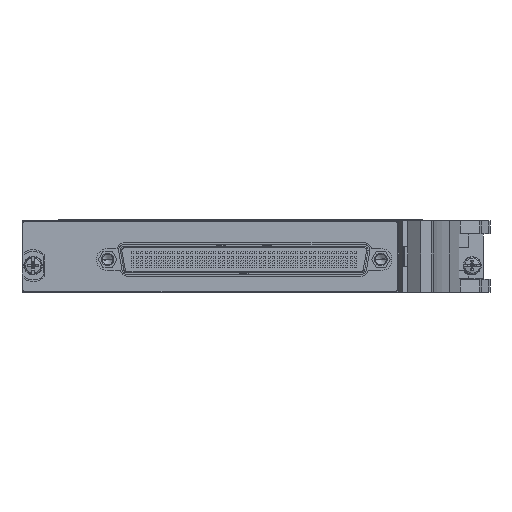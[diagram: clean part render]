
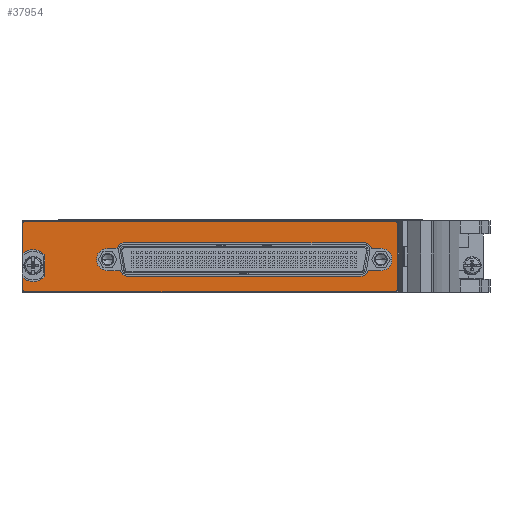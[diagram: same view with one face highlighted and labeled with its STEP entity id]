
A CAD part, left-side view. The second image highlights one B-rep face of the part: STEP entity #37954.
In plain terms, the highlighted planar face has unit normal (-1, 0, 0).
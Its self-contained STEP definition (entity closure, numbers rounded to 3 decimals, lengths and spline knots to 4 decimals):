
#6010=CARTESIAN_POINT('',(-4.289,0.5346,0.6615));
#6011=DIRECTION('',(-1.,0.,0.));
#6012=DIRECTION('',(0.,0.,1.));
#6013=AXIS2_PLACEMENT_3D('',#6010,#6011,#6012);
#6015=DIRECTION('',(0.,1.,0.));
#6016=VECTOR('',#6015,4.07);
#6017=CARTESIAN_POINT('',(-4.289,-3.5354,0.6815));
#6018=LINE('',#6017,#6016);
#6019=CARTESIAN_POINT('',(-4.289,-3.5354,0.6615));
#6020=DIRECTION('',(-1.,0.,0.));
#6021=DIRECTION('',(0.,-1.,0.));
#6022=AXIS2_PLACEMENT_3D('',#6019,#6020,#6021);
#6024=DIRECTION('',(0.,0.,1.));
#6025=VECTOR('',#6024,0.728);
#6026=CARTESIAN_POINT('',(-4.289,-3.5554,-0.0665));
#6027=LINE('',#6026,#6025);
#6028=CARTESIAN_POINT('',(-4.289,-3.5354,-0.0665));
#6029=DIRECTION('',(-1.,0.,0.));
#6030=DIRECTION('',(0.,0.,-1.));
#6031=AXIS2_PLACEMENT_3D('',#6028,#6029,#6030);
#6033=DIRECTION('',(0.,-1.,0.));
#6034=VECTOR('',#6033,4.07);
#6035=CARTESIAN_POINT('',(-4.289,0.5346,-0.0865));
#6036=LINE('',#6035,#6034);
#6037=CARTESIAN_POINT('',(-4.289,0.5346,-0.0665));
#6038=DIRECTION('',(-1.,0.,0.));
#6039=DIRECTION('',(0.,1.,0.));
#6040=AXIS2_PLACEMENT_3D('',#6037,#6038,#6039);
#6042=DIRECTION('',(0.,0.,-1.));
#6043=VECTOR('',#6042,0.1295);
#6044=CARTESIAN_POINT('',(-4.289,0.5546,0.063));
#6045=LINE('',#6044,#6043);
#6046=CARTESIAN_POINT('',(-4.289,0.4426,0.1975));
#6047=DIRECTION('',(1.,0.,0.));
#6048=DIRECTION('',(0.,-0.737,-0.676));
#6049=AXIS2_PLACEMENT_3D('',#6046,#6047,#6048);
#6051=DIRECTION('',(0.,0.,-1.));
#6052=VECTOR('',#6051,0.2365);
#6053=CARTESIAN_POINT('',(-4.289,0.3136,0.3158));
#6054=LINE('',#6053,#6052);
#6055=CARTESIAN_POINT('',(-4.289,0.4426,0.1975));
#6056=DIRECTION('',(1.,0.,0.));
#6057=DIRECTION('',(0.,0.64,0.768));
#6058=AXIS2_PLACEMENT_3D('',#6055,#6056,#6057);
#6060=DIRECTION('',(0.,0.,-1.));
#6061=VECTOR('',#6060,0.3295);
#6062=CARTESIAN_POINT('',(-4.289,0.5546,0.6615));
#6063=LINE('',#6062,#6061);
#6064=DIRECTION('',(0.,1.,0.));
#6065=VECTOR('',#6064,0.1034);
#6066=CARTESIAN_POINT('',(-4.289,-3.3753,0.3865));
#6067=LINE('',#6066,#6065);
#6068=CARTESIAN_POINT('',(-4.289,-3.1921,0.3675));
#6069=DIRECTION('',(-1.,0.,0.));
#6070=DIRECTION('',(0.,-0.973,0.232));
#6071=AXIS2_PLACEMENT_3D('',#6068,#6069,#6070);
#6073=DIRECTION('',(0.,1.,0.));
#6074=VECTOR('',#6073,2.6336);
#6075=CARTESIAN_POINT('',(-4.289,-3.1921,0.4495));
#6076=LINE('',#6075,#6074);
#6077=CARTESIAN_POINT('',(-4.289,-0.5585,0.3675));
#6078=DIRECTION('',(-1.,0.,0.));
#6079=DIRECTION('',(0.,0.,1.));
#6080=AXIS2_PLACEMENT_3D('',#6077,#6078,#6079);
#6082=DIRECTION('',(0.,1.,0.));
#6083=VECTOR('',#6082,0.1034);
#6084=CARTESIAN_POINT('',(-4.289,-0.4788,0.3865));
#6085=LINE('',#6084,#6083);
#6086=CARTESIAN_POINT('',(-4.289,-0.3753,0.2645));
#6087=DIRECTION('',(-1.,0.,0.));
#6088=DIRECTION('',(0.,0.,1.));
#6089=AXIS2_PLACEMENT_3D('',#6086,#6087,#6088);
#6091=DIRECTION('',(0.,-1.,0.));
#6092=VECTOR('',#6091,0.1396);
#6093=CARTESIAN_POINT('',(-4.289,-0.3753,0.1425));
#6094=LINE('',#6093,#6092);
#6095=CARTESIAN_POINT('',(-4.289,-0.5947,0.1615));
#6096=DIRECTION('',(-1.,0.,0.));
#6097=DIRECTION('',(0.,0.973,-0.232));
#6098=AXIS2_PLACEMENT_3D('',#6095,#6096,#6097);
#6100=DIRECTION('',(0.,-1.,0.));
#6101=VECTOR('',#6100,2.5613);
#6102=CARTESIAN_POINT('',(-4.289,-0.5947,0.0795));
#6103=LINE('',#6102,#6101);
#6104=CARTESIAN_POINT('',(-4.289,-3.156,0.1615));
#6105=DIRECTION('',(-1.,0.,0.));
#6106=DIRECTION('',(0.,0.,-1.));
#6107=AXIS2_PLACEMENT_3D('',#6104,#6105,#6106);
#6109=DIRECTION('',(0.,-1.,0.));
#6110=VECTOR('',#6109,0.1396);
#6111=CARTESIAN_POINT('',(-4.289,-3.2357,0.1425));
#6112=LINE('',#6111,#6110);
#6113=CARTESIAN_POINT('',(-4.289,-3.3753,0.2645));
#6114=DIRECTION('',(-1.,0.,0.));
#6115=DIRECTION('',(0.,0.,-1.));
#6116=AXIS2_PLACEMENT_3D('',#6113,#6114,#6115);
#33401=CARTESIAN_POINT('',(-4.289,0.5346,0.6815));
#33402=CARTESIAN_POINT('',(-4.289,0.5546,0.6615));
#33403=VERTEX_POINT('',#33401);
#33404=VERTEX_POINT('',#33402);
#33405=CARTESIAN_POINT('',(-4.289,0.5546,0.332));
#33406=VERTEX_POINT('',#33405);
#33407=CARTESIAN_POINT('',(-4.289,0.3136,0.3158));
#33408=VERTEX_POINT('',#33407);
#33409=CARTESIAN_POINT('',(-4.289,0.3136,0.0792));
#33410=VERTEX_POINT('',#33409);
#33411=CARTESIAN_POINT('',(-4.289,0.5546,0.063));
#33412=VERTEX_POINT('',#33411);
#33413=CARTESIAN_POINT('',(-4.289,0.5546,-0.0665));
#33414=VERTEX_POINT('',#33413);
#33415=CARTESIAN_POINT('',(-4.289,0.5346,-0.0865));
#33416=VERTEX_POINT('',#33415);
#33417=CARTESIAN_POINT('',(-4.289,-3.5354,-0.0865));
#33418=VERTEX_POINT('',#33417);
#33419=CARTESIAN_POINT('',(-4.289,-3.5554,-0.0665));
#33420=VERTEX_POINT('',#33419);
#33421=CARTESIAN_POINT('',(-4.289,-3.5554,0.6615));
#33422=VERTEX_POINT('',#33421);
#33423=CARTESIAN_POINT('',(-4.289,-3.5354,0.6815));
#33424=VERTEX_POINT('',#33423);
#33425=CARTESIAN_POINT('',(-4.289,-3.3753,0.3865));
#33426=CARTESIAN_POINT('',(-4.289,-3.2719,0.3865));
#33427=VERTEX_POINT('',#33425);
#33428=VERTEX_POINT('',#33426);
#33429=CARTESIAN_POINT('',(-4.289,-3.1921,0.4495));
#33430=VERTEX_POINT('',#33429);
#33431=CARTESIAN_POINT('',(-4.289,-0.5585,0.4495));
#33432=VERTEX_POINT('',#33431);
#33433=CARTESIAN_POINT('',(-4.289,-0.4788,0.3865));
#33434=VERTEX_POINT('',#33433);
#33435=CARTESIAN_POINT('',(-4.289,-0.3753,0.3865));
#33436=VERTEX_POINT('',#33435);
#33437=CARTESIAN_POINT('',(-4.289,-0.3753,0.1425));
#33438=VERTEX_POINT('',#33437);
#33439=CARTESIAN_POINT('',(-4.289,-0.5149,0.1425));
#33440=VERTEX_POINT('',#33439);
#33441=CARTESIAN_POINT('',(-4.289,-0.5947,0.0795));
#33442=VERTEX_POINT('',#33441);
#33443=CARTESIAN_POINT('',(-4.289,-3.156,0.0795));
#33444=VERTEX_POINT('',#33443);
#33445=CARTESIAN_POINT('',(-4.289,-3.2357,0.1425));
#33446=VERTEX_POINT('',#33445);
#33447=CARTESIAN_POINT('',(-4.289,-3.3753,0.1425));
#33448=VERTEX_POINT('',#33447);
#37900=CARTESIAN_POINT('',(-4.289,0.4426,0.1975));
#37901=DIRECTION('',(-1.,0.,0.));
#37902=DIRECTION('',(0.,0.,1.));
#37903=AXIS2_PLACEMENT_3D('',#37900,#37901,#37902);
#37904=PLANE('',#37903);
#37905=ORIENTED_EDGE('',*,*,#37880,.F.);
#37906=ORIENTED_EDGE('',*,*,#37894,.F.);
#37907=ORIENTED_EDGE('',*,*,#37812,.F.);
#37909=ORIENTED_EDGE('',*,*,#37908,.F.);
#37911=ORIENTED_EDGE('',*,*,#37910,.F.);
#37913=ORIENTED_EDGE('',*,*,#37912,.F.);
#37915=ORIENTED_EDGE('',*,*,#37914,.F.);
#37917=ORIENTED_EDGE('',*,*,#37916,.F.);
#37919=ORIENTED_EDGE('',*,*,#37918,.F.);
#37921=ORIENTED_EDGE('',*,*,#37920,.F.);
#37923=ORIENTED_EDGE('',*,*,#37922,.F.);
#37925=ORIENTED_EDGE('',*,*,#37924,.F.);
#37926=EDGE_LOOP('',(#37905,#37906,#37907,#37909,#37911,#37913,#37915,#37917,
#37919,#37921,#37923,#37925));
#37927=FACE_OUTER_BOUND('',#37926,.F.);
#37929=ORIENTED_EDGE('',*,*,#37928,.T.);
#37931=ORIENTED_EDGE('',*,*,#37930,.T.);
#37933=ORIENTED_EDGE('',*,*,#37932,.T.);
#37935=ORIENTED_EDGE('',*,*,#37934,.T.);
#37937=ORIENTED_EDGE('',*,*,#37936,.T.);
#37939=ORIENTED_EDGE('',*,*,#37938,.T.);
#37941=ORIENTED_EDGE('',*,*,#37940,.T.);
#37943=ORIENTED_EDGE('',*,*,#37942,.T.);
#37945=ORIENTED_EDGE('',*,*,#37944,.T.);
#37947=ORIENTED_EDGE('',*,*,#37946,.T.);
#37949=ORIENTED_EDGE('',*,*,#37948,.T.);
#37951=ORIENTED_EDGE('',*,*,#37950,.T.);
#37952=EDGE_LOOP('',(#37929,#37931,#37933,#37935,#37937,#37939,#37941,#37943,
#37945,#37947,#37949,#37951));
#37953=FACE_BOUND('',#37952,.F.);
#37954=ADVANCED_FACE('',(#37927,#37953),#37904,.T.);
#6014=CIRCLE('',#6013,0.02);
#6023=CIRCLE('',#6022,0.02);
#6032=CIRCLE('',#6031,0.02);
#6041=CIRCLE('',#6040,0.02);
#6050=CIRCLE('',#6049,0.175);
#6059=CIRCLE('',#6058,0.175);
#6072=CIRCLE('',#6071,0.082);
#6081=CIRCLE('',#6080,0.082);
#6090=CIRCLE('',#6089,0.122);
#6099=CIRCLE('',#6098,0.082);
#6108=CIRCLE('',#6107,0.082);
#6117=CIRCLE('',#6116,0.122);
#37812=EDGE_CURVE('',#33422,#33424,#6023,.T.);
#37880=EDGE_CURVE('',#33403,#33404,#6014,.T.);
#37894=EDGE_CURVE('',#33424,#33403,#6018,.T.);
#37908=EDGE_CURVE('',#33420,#33422,#6027,.T.);
#37910=EDGE_CURVE('',#33418,#33420,#6032,.T.);
#37912=EDGE_CURVE('',#33416,#33418,#6036,.T.);
#37914=EDGE_CURVE('',#33414,#33416,#6041,.T.);
#37916=EDGE_CURVE('',#33412,#33414,#6045,.T.);
#37918=EDGE_CURVE('',#33410,#33412,#6050,.T.);
#37920=EDGE_CURVE('',#33408,#33410,#6054,.T.);
#37922=EDGE_CURVE('',#33406,#33408,#6059,.T.);
#37924=EDGE_CURVE('',#33404,#33406,#6063,.T.);
#37928=EDGE_CURVE('',#33427,#33428,#6067,.T.);
#37930=EDGE_CURVE('',#33428,#33430,#6072,.T.);
#37932=EDGE_CURVE('',#33430,#33432,#6076,.T.);
#37934=EDGE_CURVE('',#33432,#33434,#6081,.T.);
#37936=EDGE_CURVE('',#33434,#33436,#6085,.T.);
#37938=EDGE_CURVE('',#33436,#33438,#6090,.T.);
#37940=EDGE_CURVE('',#33438,#33440,#6094,.T.);
#37942=EDGE_CURVE('',#33440,#33442,#6099,.T.);
#37944=EDGE_CURVE('',#33442,#33444,#6103,.T.);
#37946=EDGE_CURVE('',#33444,#33446,#6108,.T.);
#37948=EDGE_CURVE('',#33446,#33448,#6112,.T.);
#37950=EDGE_CURVE('',#33448,#33427,#6117,.T.);
